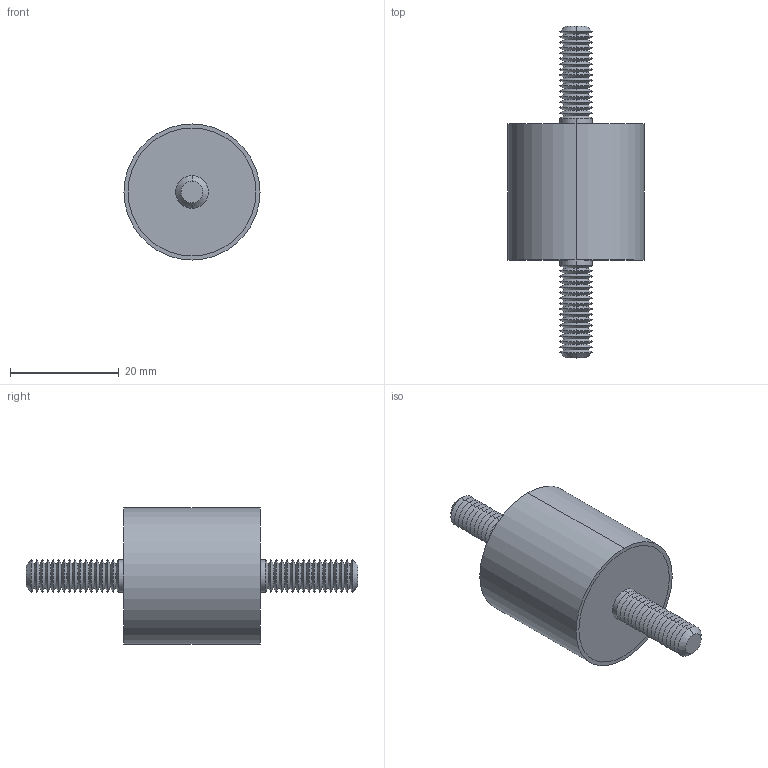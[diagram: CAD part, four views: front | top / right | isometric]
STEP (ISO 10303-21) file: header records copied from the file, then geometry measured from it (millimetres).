
FILE_DESCRIPTION (( 'STEP AP203' ), '1' );
FILE_NAME ('61040.W0255.step', '2019-09-24T22:32:34', ( '' ), ( '' ), 'SwSTEP 2.0', 'SolidWorks 2017', '' );
FILE_SCHEMA (( 'CONFIG_CONTROL_DESIGN' ));
Length unit declared in the file: millimetre
Products named in the file (4): Part3_61040.W0255; 61040.W0255; Part2_61040.W0255; Part1_61040.W0255
Assembly tree (3 placements, depth 2):
  61040.W0255
    Part1_61040.W0255
    Part2_61040.W0255
    Part3_61040.W0255
Bounding box: 25 x 61 x 25 mm (x, y, z)
Volume: 13036.9 mm3; surface area: 6058.5 mm2
Topology: 3 solids, 3 shells, 156 faces, 306 edges, 160 vertices
Faces by surface type: cone 132, cylinder 14, plane 10
Entity records: 4308 total; most frequent: DIRECTION 790, CARTESIAN_POINT 628, ORIENTED_EDGE 612, AXIS2_PLACEMENT_3D 322, EDGE_CURVE 306, VERTEX_POINT 160, EDGE_LOOP 160, CIRCLE 160
